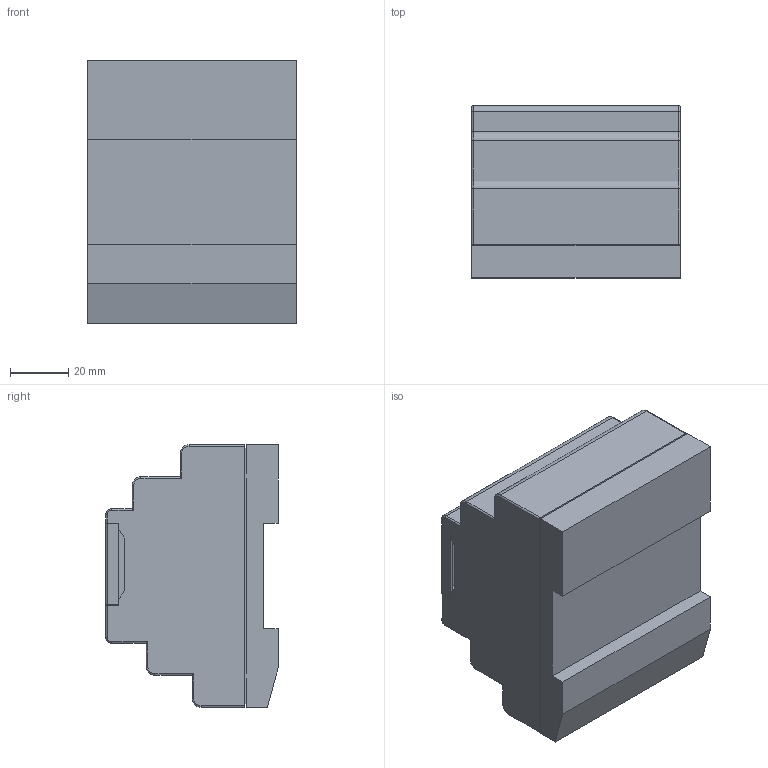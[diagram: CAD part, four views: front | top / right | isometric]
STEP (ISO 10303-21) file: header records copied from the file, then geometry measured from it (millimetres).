
FILE_DESCRIPTION (( 'STEP AP214' ), '1' );
FILE_NAME ('PR-E-16 Series 3D.STEP', '2018-07-20T13:21:03', ( 'admin' ), ( '' ), 'SwSTEP 2.0', 'SolidWorks 2014', '' );
FILE_SCHEMA (( 'AUTOMOTIVE_DESIGN' ));
Length unit declared in the file: millimetre
Products named in the file (5): PR-E-16 Series 3D; PR-E-16 Series -2; PR-E-16 Series -1; PR-E-16 Series -3; PR-E-16 Series -4
Assembly tree (5 placements, depth 2):
  PR-E-16 Series 3D
    PR-E-16 Series -2
    PR-E-16 Series -1
    PR-E-16 Series -3  x2
    PR-E-16 Series -4
Bounding box: 71.5 x 59 x 90 mm (x, y, z)
Volume: 95319.9 mm3; surface area: 59845.3 mm2
Topology: 5 solids, 5 shells, 261 faces, 711 edges, 462 vertices
Faces by surface type: plane 141, cylinder 108, torus 12
Entity records: 8014 total; most frequent: CARTESIAN_POINT 1366, DIRECTION 1360, ORIENTED_EDGE 1324, EDGE_CURVE 662, AXIS2_PLACEMENT_3D 456, VECTOR 448, LINE 448, VERTEX_POINT 430
